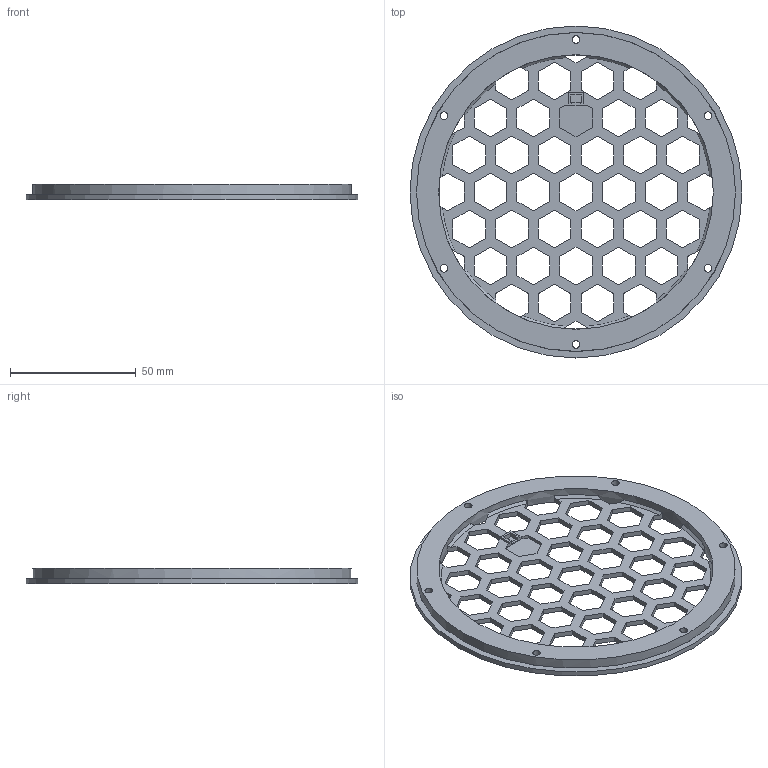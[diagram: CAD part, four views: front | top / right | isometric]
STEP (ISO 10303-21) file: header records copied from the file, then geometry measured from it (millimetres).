
FILE_DESCRIPTION(/* description */ (''),/* implementation_level */ '2;1');
FILE_NAME(/* name */ 'D:\Documents\Projects\Pan Tilt Mount\CAD STEP files\Pan Mount Bearing Clamp.stp',/* time_stamp */ '2020-06-08T18:39:30+01:00',/* author */ ('isaac879'),/* organization */ (''),/* preprocessor_version */ 'ST-DEVELOPER v18',/* originating_system */ 'Autodesk Inventor 2020',/* authorisation */ '');
FILE_SCHEMA (('AUTOMOTIVE_DESIGN { 1 0 10303 214 3 1 1 }'));
Length unit declared in the file: millimetre
Products named in the file (1): Pan Mount Bearing Clamp
Bounding box: 132 x 132 x 6 mm (x, y, z)
Volume: 29435 mm3; surface area: 24577.8 mm2
Topology: 1 solids, 1 shells, 279 faces, 879 edges, 587 vertices
Faces by surface type: plane 252, cylinder 15, cone 12
Full cylindrical faces by diameter (mm): 3.1 x6, 6 x6, 109.2 x1, 126.8 x1, 132 x1
Entity records: 9875 total; most frequent: CARTESIAN_POINT 1794, ORIENTED_EDGE 1758, DIRECTION 1520, EDGE_CURVE 879, LINE 750, VECTOR 750, VERTEX_POINT 587, AXIS2_PLACEMENT_3D 385
